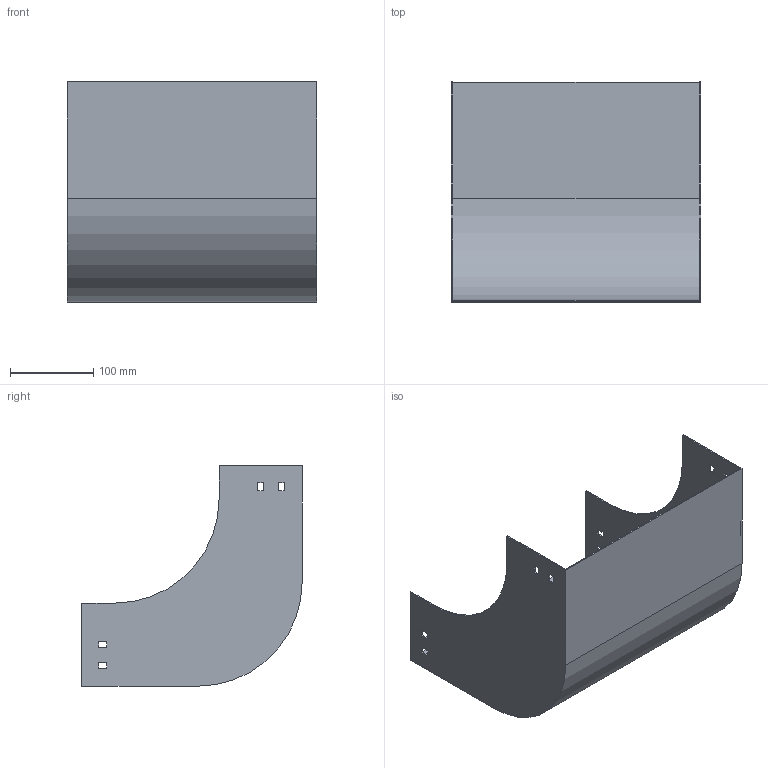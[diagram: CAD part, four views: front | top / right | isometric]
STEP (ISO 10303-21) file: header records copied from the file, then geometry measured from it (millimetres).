
FILE_DESCRIPTION (( 'STEP AP214' ), '1' );
FILE_NAME ('S9_301.step', '2025-07-16T09:28:10', ( '' ), ( '' ), 'SwSTEP 2.0', 'SolidWorks 2023', '' );
FILE_SCHEMA (( 'AUTOMOTIVE_DESIGN' ));
Length unit declared in the file: millimetre
Products named in the file (1): S9_301
Bounding box: 300 x 265 x 265 mm (x, y, z)
Volume: 339848.9 mm3; surface area: 455863.4 mm2
Topology: 1 solids, 1 shells, 50 faces, 144 edges, 96 vertices
Faces by surface type: plane 46, cylinder 4
Entity records: 1671 total; most frequent: CARTESIAN_POINT 291, ORIENTED_EDGE 288, DIRECTION 254, EDGE_CURVE 144, LINE 136, VECTOR 136, VERTEX_POINT 96, EDGE_LOOP 66
